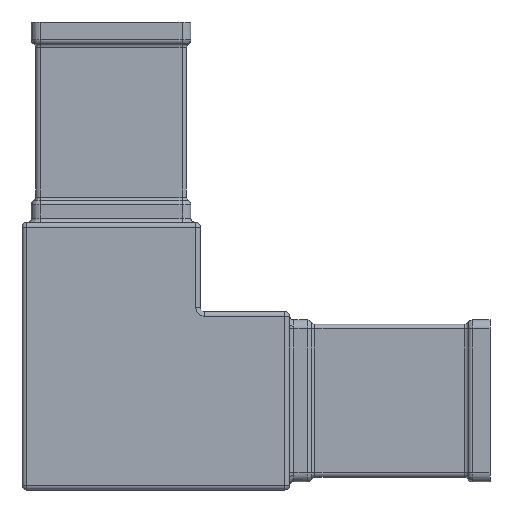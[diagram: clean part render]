
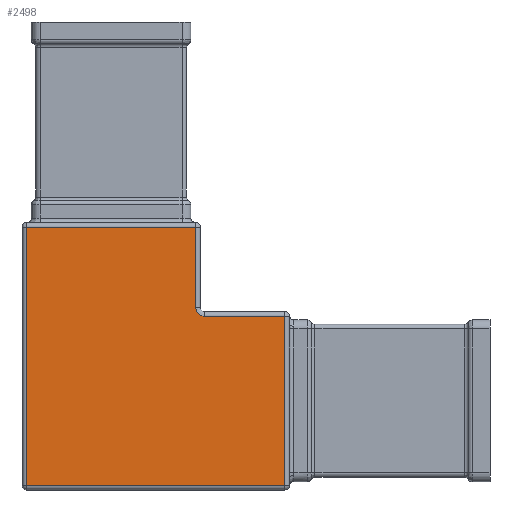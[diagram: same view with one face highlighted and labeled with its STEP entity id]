
A CAD part, front view. The second image highlights one B-rep face of the part: STEP entity #2498.
In plain terms, the highlighted planar face has unit normal (0, -1, 0).
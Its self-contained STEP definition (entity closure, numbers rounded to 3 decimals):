
#9 = VECTOR ( 'NONE', #5210, 1000. ) ;
#28 = CARTESIAN_POINT ( 'NONE',  ( 29., 0., -19. ) ) ;
#50 = ORIENTED_EDGE ( 'NONE', *, *, #3687, .T. ) ;
#126 = LINE ( 'NONE', #2119, #140 ) ;
#140 = VECTOR ( 'NONE', #4106, 1000. ) ;
#252 = ORIENTED_EDGE ( 'NONE', *, *, #1422, .F. ) ;
#318 = CARTESIAN_POINT ( 'NONE',  ( -29., 0., 39. ) ) ;
#340 = VECTOR ( 'NONE', #4561, 1000. ) ;
#400 = LINE ( 'NONE', #2849, #1048 ) ;
#495 = DIRECTION ( 'NONE',  ( 1., 0., 0. ) ) ;
#508 = DIRECTION ( 'NONE',  ( 0., -1., 0. ) ) ;
#598 = FACE_OUTER_BOUND ( 'NONE', #2656, .T. ) ;
#764 = CARTESIAN_POINT ( 'NONE',  ( 10.873, 0., 19. ) ) ;
#796 = CARTESIAN_POINT ( 'NONE',  ( 9.153, 0., 20.232 ) ) ;
#1048 = VECTOR ( 'NONE', #6353, 1000. ) ;
#1113 = B_SPLINE_CURVE_WITH_KNOTS ( 'NONE', 3,
 ( #3734, #764, #2753, #4220, #4750, #3310, #2261, #2195, #1287, #1184, #3765, #2657, #3275, #5696, #5269, #796, #4677, #2788, #5798, #2297 ),
 .UNSPECIFIED., .F., .F.,
 ( 4, 1, 1, 1, 2, 2, 2, 1, 1, 1, 2, 2, 4 ),
 ( 0., 0.125, 0.187, 0.219, 0.234, 0.25, 0.5, 0.625, 0.688, 0.719, 0.734, 0.75, 1. ),
 .UNSPECIFIED. ) ;
#1125 = EDGE_CURVE ( 'NONE', #2662, #1620, #400, .T. ) ;
#1184 = CARTESIAN_POINT ( 'NONE',  ( 9.781, 0., 19.391 ) ) ;
#1287 = CARTESIAN_POINT ( 'NONE',  ( 10.007, 0., 19.242 ) ) ;
#1422 = EDGE_CURVE ( 'NONE', #3395, #4755, #3653, .T. ) ;
#1557 = CARTESIAN_POINT ( 'NONE',  ( -30., 0., 19. ) ) ;
#1593 = CARTESIAN_POINT ( 'NONE',  ( 0., 0., 39. ) ) ;
#1620 = VERTEX_POINT ( 'NONE', #2999 ) ;
#1756 = CARTESIAN_POINT ( 'NONE',  ( 9., 0., 21. ) ) ;
#1847 = ORIENTED_EDGE ( 'NONE', *, *, #5724, .F. ) ;
#2086 = VECTOR ( 'NONE', #5650, 1000. ) ;
#2119 = CARTESIAN_POINT ( 'NONE',  ( 9., 0., 40. ) ) ;
#2195 = CARTESIAN_POINT ( 'NONE',  ( 10.28, 0., 19.134 ) ) ;
#2261 = CARTESIAN_POINT ( 'NONE',  ( 10.293, 0., 19.129 ) ) ;
#2297 = CARTESIAN_POINT ( 'NONE',  ( 9., 0., 21. ) ) ;
#2334 = EDGE_CURVE ( 'NONE', #2662, #5321, #3209, .T. ) ;
#2361 = CARTESIAN_POINT ( 'NONE',  ( 9., 0., 39. ) ) ;
#2496 = DIRECTION ( 'NONE',  ( 0., 0., -1. ) ) ;
#2498 = ADVANCED_FACE ( 'NONE', ( #598 ), #2707, .T. ) ;
#2638 = VECTOR ( 'NONE', #495, 1000. ) ;
#2656 = EDGE_LOOP ( 'NONE', ( #6176, #5543, #5449, #1847, #50, #3176, #252 ) ) ;
#2657 = CARTESIAN_POINT ( 'NONE',  ( 9.359, 0., 19.841 ) ) ;
#2662 = VERTEX_POINT ( 'NONE', #28 ) ;
#2707 = PLANE ( 'NONE',  #5121 ) ;
#2753 = CARTESIAN_POINT ( 'NONE',  ( 10.686, 0., 19.018 ) ) ;
#2758 = CARTESIAN_POINT ( 'NONE',  ( 29., 0., 0. ) ) ;
#2788 = CARTESIAN_POINT ( 'NONE',  ( 9.047, 0., 20.5 ) ) ;
#2849 = CARTESIAN_POINT ( 'NONE',  ( -30., 0., -19. ) ) ;
#2999 = CARTESIAN_POINT ( 'NONE',  ( -29., 0., -19. ) ) ;
#3000 = LINE ( 'NONE', #1557, #2638 ) ;
#3176 = ORIENTED_EDGE ( 'NONE', *, *, #3969, .F. ) ;
#3209 = LINE ( 'NONE', #2758, #9 ) ;
#3275 = CARTESIAN_POINT ( 'NONE',  ( 9.24, 0., 20.046 ) ) ;
#3310 = CARTESIAN_POINT ( 'NONE',  ( 10.323, 0., 19.118 ) ) ;
#3395 = VERTEX_POINT ( 'NONE', #318 ) ;
#3544 = LINE ( 'NONE', #5538, #340 ) ;
#3653 = LINE ( 'NONE', #1593, #2086 ) ;
#3687 = EDGE_CURVE ( 'NONE', #4432, #5583, #1113, .T. ) ;
#3734 = CARTESIAN_POINT ( 'NONE',  ( 11., 0., 19. ) ) ;
#3765 = CARTESIAN_POINT ( 'NONE',  ( 9.488, 0., 19.683 ) ) ;
#3969 = EDGE_CURVE ( 'NONE', #4755, #5583, #126, .T. ) ;
#4106 = DIRECTION ( 'NONE',  ( 0., 0., -1. ) ) ;
#4220 = CARTESIAN_POINT ( 'NONE',  ( 10.473, 0., 19.069 ) ) ;
#4432 = VERTEX_POINT ( 'NONE', #6092 ) ;
#4561 = DIRECTION ( 'NONE',  ( 0., 0., 1. ) ) ;
#4677 = CARTESIAN_POINT ( 'NONE',  ( 9.146, 0., 20.249 ) ) ;
#4719 = CARTESIAN_POINT ( 'NONE',  ( 29., 0., 19. ) ) ;
#4750 = CARTESIAN_POINT ( 'NONE',  ( 10.368, 0., 19.102 ) ) ;
#4755 = VERTEX_POINT ( 'NONE', #2361 ) ;
#5071 = CARTESIAN_POINT ( 'NONE',  ( 0., 0., 0. ) ) ;
#5121 = AXIS2_PLACEMENT_3D ( 'NONE', #5071, #508, #2496 ) ;
#5165 = EDGE_CURVE ( 'NONE', #1620, #3395, #3544, .T. ) ;
#5210 = DIRECTION ( 'NONE',  ( 0., 0., 1. ) ) ;
#5269 = CARTESIAN_POINT ( 'NONE',  ( 9.167, 0., 20.2 ) ) ;
#5321 = VERTEX_POINT ( 'NONE', #4719 ) ;
#5449 = ORIENTED_EDGE ( 'NONE', *, *, #2334, .T. ) ;
#5538 = CARTESIAN_POINT ( 'NONE',  ( -29., 0., 20. ) ) ;
#5543 = ORIENTED_EDGE ( 'NONE', *, *, #1125, .F. ) ;
#5583 = VERTEX_POINT ( 'NONE', #1756 ) ;
#5650 = DIRECTION ( 'NONE',  ( 1., 0., 0. ) ) ;
#5696 = CARTESIAN_POINT ( 'NONE',  ( 9.188, 0., 20.153 ) ) ;
#5724 = EDGE_CURVE ( 'NONE', #4432, #5321, #3000, .T. ) ;
#5798 = CARTESIAN_POINT ( 'NONE',  ( 9., 0., 20.745 ) ) ;
#6092 = CARTESIAN_POINT ( 'NONE',  ( 11., 0., 19. ) ) ;
#6176 = ORIENTED_EDGE ( 'NONE', *, *, #5165, .F. ) ;
#6353 = DIRECTION ( 'NONE',  ( -1., 0., 0. ) ) ;
